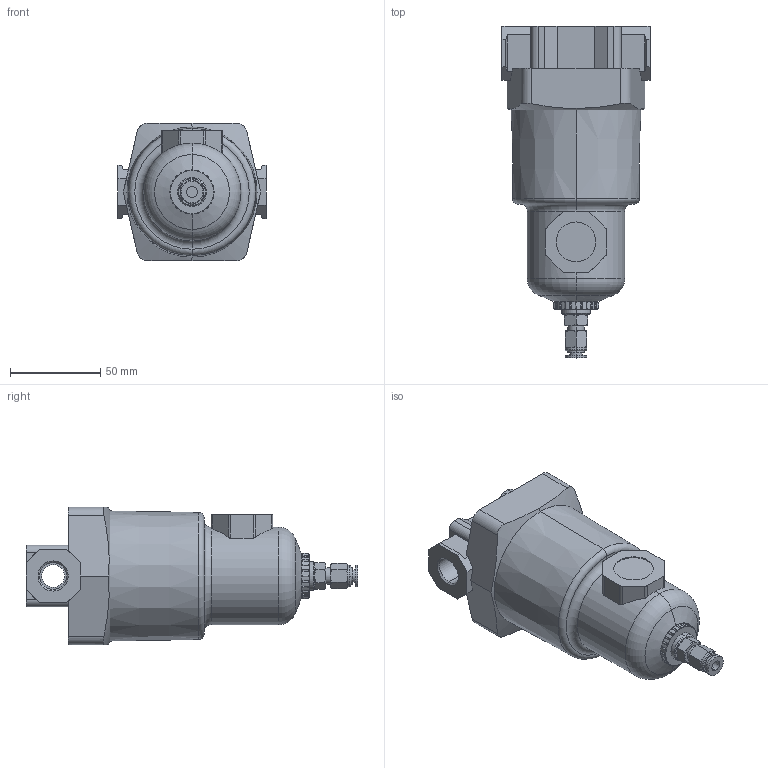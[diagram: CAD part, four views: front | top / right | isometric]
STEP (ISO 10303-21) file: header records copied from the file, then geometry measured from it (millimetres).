
FILE_DESCRIPTION (( 'STEP AP203' ), '1' );
FILE_NAME ('FSO250-03D.STEP', '2021-09-22T11:28:39', ( '' ), ( '' ), 'SwSTEP 2.0', 'SolidWorks 2019', '' );
FILE_SCHEMA (( 'CONFIG_CONTROL_DESIGN' ));
Length unit declared in the file: millimetre
Products named in the file (1): FSO250-03D
Bounding box: 82 x 183.7 x 76 mm (x, y, z)
Volume: 489423.8 mm3; surface area: 48927.2 mm2
Topology: 1 solids, 1 shells, 328 faces, 750 edges, 448 vertices
Faces by surface type: cylinder 127, cone 100, plane 93, torus 8
Entity records: 11853 total; most frequent: CARTESIAN_POINT 4474, DIRECTION 1550, ORIENTED_EDGE 1500, EDGE_CURVE 750, AXIS2_PLACEMENT_3D 610, VERTEX_POINT 448, EDGE_LOOP 354, LINE 330
